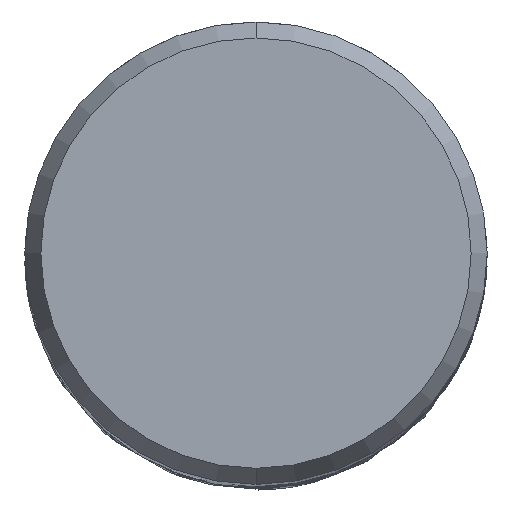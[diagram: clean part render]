
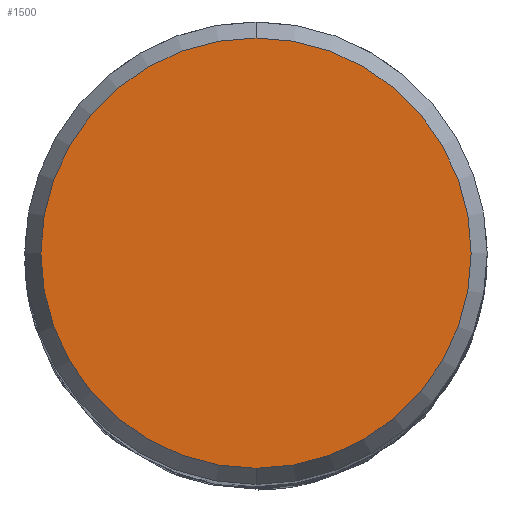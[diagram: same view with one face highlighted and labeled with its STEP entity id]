
A CAD part, top view. The second image highlights one B-rep face of the part: STEP entity #1500.
In plain terms, the highlighted planar face has unit normal (0, 0, 1).
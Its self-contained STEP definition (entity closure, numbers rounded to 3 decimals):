
#854=EDGE_CURVE('',#1524,#1368,#2332,.T.);
#944=EDGE_CURVE('',#1368,#1524,#2432,.T.);
#1368=VERTEX_POINT('',#2894);
#1500=ADVANCED_FACE('',(#3039),#3040,.T.);
#1524=VERTEX_POINT('',#3066);
#2332=CIRCLE('',#5803,9.307);
#2432=CIRCLE('',#6683,9.307);
#2894=CARTESIAN_POINT('',(0.,-9.307,0.0));
#3039=FACE_OUTER_BOUND('',#15319,.T.);
#3040=PLANE('',#15320);
#3066=CARTESIAN_POINT('',(0.0,9.307,0.0));
#5803=AXIS2_PLACEMENT_3D('',#24101,#24102,#24103);
#6683=AXIS2_PLACEMENT_3D('',#24224,#24225,#24226);
#15319=EDGE_LOOP('',(#24798,#24799));
#15320=AXIS2_PLACEMENT_3D('',#24800,#24801,#24802);
#24101=CARTESIAN_POINT('',(0.0,0.0,0.0));
#24102=DIRECTION('',(0.0,0.0,-1.0));
#24103=DIRECTION('',(0.0,1.0,0.0));
#24224=CARTESIAN_POINT('',(0.0,0.0,0.0));
#24225=DIRECTION('',(0.0,0.0,-1.0));
#24226=DIRECTION('',(0.0,1.0,0.0));
#24798=ORIENTED_EDGE('',*,*,#854,.F.);
#24799=ORIENTED_EDGE('',*,*,#944,.F.);
#24800=CARTESIAN_POINT('',(0.0,4.654,0.0));
#24801=DIRECTION('',(-0.0,0.0,1.0));
#24802=DIRECTION('',(0.0,-1.0,0.0));
